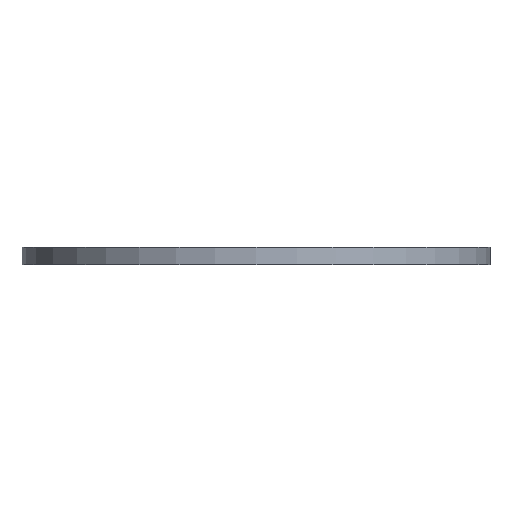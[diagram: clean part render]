
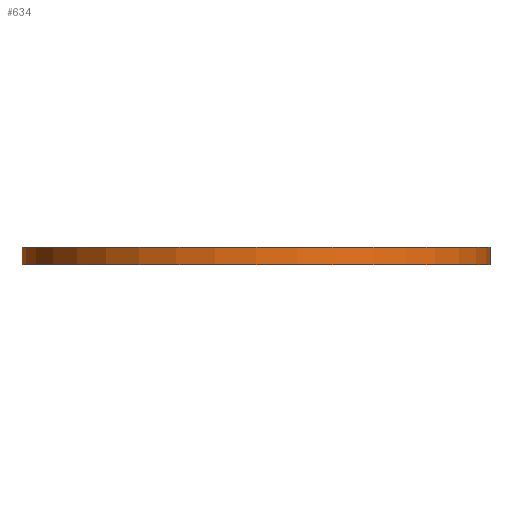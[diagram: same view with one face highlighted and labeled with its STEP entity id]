
A CAD part, front view. The second image highlights one B-rep face of the part: STEP entity #634.
In plain terms, the highlighted cylindrical face has radius 85.09 mm (diameter 170.18 mm), a partial arc.
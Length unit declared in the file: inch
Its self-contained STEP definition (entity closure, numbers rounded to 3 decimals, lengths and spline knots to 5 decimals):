
#14 = EDGE_CURVE ( 'NONE', #108, #111, #165, .T. ) ;
#23 = ORIENTED_EDGE ( 'NONE', *, *, #110, .T. ) ;
#32 = ORIENTED_EDGE ( 'NONE', *, *, #593, .F. ) ;
#33 = ORIENTED_EDGE ( 'NONE', *, *, #76, .F. ) ;
#34 = EDGE_LOOP ( 'NONE', ( #33, #32, #23, #631 ) ) ;
#73 = VERTEX_POINT ( 'NONE', #273 ) ;
#76 = EDGE_CURVE ( 'NONE', #73, #111, #272, .T. ) ;
#108 = VERTEX_POINT ( 'NONE', #361 ) ;
#110 = EDGE_CURVE ( 'NONE', #117, #108, #360, .T. ) ;
#111 = VERTEX_POINT ( 'NONE', #356 ) ;
#117 = VERTEX_POINT ( 'NONE', #349 ) ;
#161 = DIRECTION ( 'NONE',  ( 1., 0., 0. ) ) ;
#162 = DIRECTION ( 'NONE',  ( 0., 0., 1. ) ) ;
#163 = CARTESIAN_POINT ( 'NONE',  ( 0., 0., 0. ) ) ;
#164 = AXIS2_PLACEMENT_3D ( 'NONE', #163, #162, #161 ) ;
#165 = CIRCLE ( 'NONE', #164, 3.35 ) ;
#269 = DIRECTION ( 'NONE',  ( 0., 0., -1. ) ) ;
#270 = VECTOR ( 'NONE', #269, 39.37008 ) ;
#271 = CARTESIAN_POINT ( 'NONE',  ( 3.35, 0., 0.25 ) ) ;
#272 = LINE ( 'NONE', #271, #270 ) ;
#273 = CARTESIAN_POINT ( 'NONE',  ( 3.35, 0., 0.25 ) ) ;
#349 = CARTESIAN_POINT ( 'NONE',  ( -3.35, 0., 0.25 ) ) ;
#356 = CARTESIAN_POINT ( 'NONE',  ( 3.35, 0., 0. ) ) ;
#357 = DIRECTION ( 'NONE',  ( 0., 0., -1. ) ) ;
#358 = VECTOR ( 'NONE', #357, 39.37008 ) ;
#359 = CARTESIAN_POINT ( 'NONE',  ( -3.35, 0., 0.25 ) ) ;
#360 = LINE ( 'NONE', #359, #358 ) ;
#361 = CARTESIAN_POINT ( 'NONE',  ( -3.35, 0., 0. ) ) ;
#427 = DIRECTION ( 'NONE',  ( 1., 0., 0. ) ) ;
#428 = DIRECTION ( 'NONE',  ( 0., 0., 1. ) ) ;
#429 = CARTESIAN_POINT ( 'NONE',  ( 0., 0., 0.25 ) ) ;
#430 = AXIS2_PLACEMENT_3D ( 'NONE', #429, #428, #427 ) ;
#435 = CIRCLE ( 'NONE', #430, 3.35 ) ;
#543 = DIRECTION ( 'NONE',  ( -1., 0., 0. ) ) ;
#544 = DIRECTION ( 'NONE',  ( 0., 0., -1. ) ) ;
#545 = CARTESIAN_POINT ( 'NONE',  ( 0., 0., 0.25 ) ) ;
#546 = AXIS2_PLACEMENT_3D ( 'NONE', #545, #544, #543 ) ;
#548 = CYLINDRICAL_SURFACE ( 'NONE', #546, 3.35 ) ;
#553 = FACE_OUTER_BOUND ( 'NONE', #34, .T. ) ;
#593 = EDGE_CURVE ( 'NONE', #117, #73, #435, .T. ) ;
#631 = ORIENTED_EDGE ( 'NONE', *, *, #14, .T. ) ;
#634 = ADVANCED_FACE ( 'NONE', ( #553 ), #548, .T. ) ;
